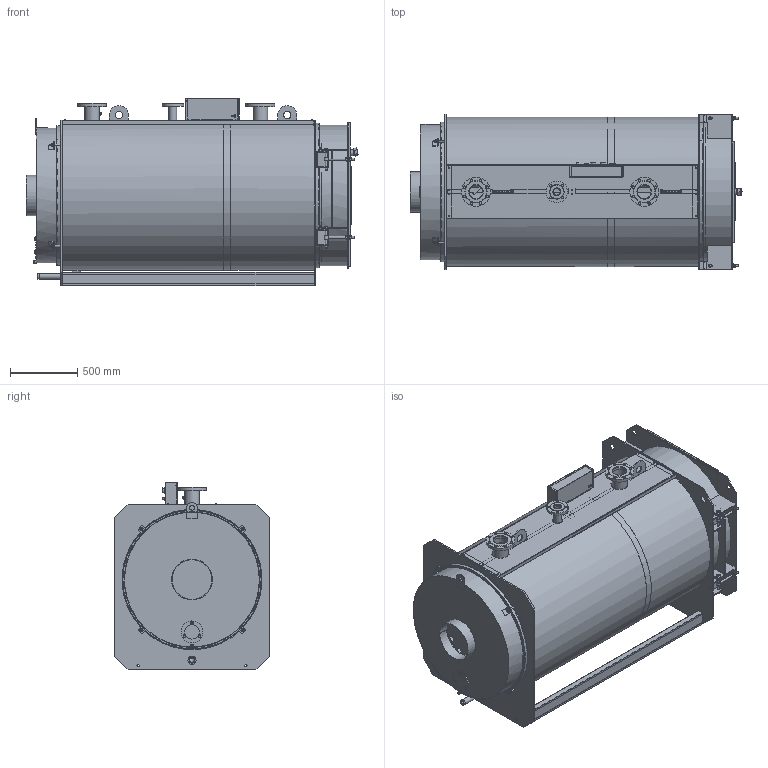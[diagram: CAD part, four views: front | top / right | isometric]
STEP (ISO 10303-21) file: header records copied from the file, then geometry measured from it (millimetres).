
FILE_DESCRIPTION(('STEP AP242'), '1');
FILE_NAME('TITAN Prom 4 (700 êÂò)', '', ('UNSPECIFIED'), ('UNSPECIFIED'), 'ASCON STEP Converter 1.6', 'ASCON Math Kernel', '');
FILE_SCHEMA(('AP242_MANAGED_MODEL_BASED_3D_ENGINEERING_MIM_LF { 1 0 10303 442 1 1 4 }'));
Length unit declared in the file: millimetre
Bounding box: 2465.29 x 1150 x 1393.16 mm (x, y, z)
Volume: 189853924.1 mm3; surface area: 32154992 mm2
Topology: 33 solids, 34 shells, 3379 faces, 8544 edges, 5446 vertices
Faces by surface type: plane 2025, cylinder 985, cone 246, bspline 72, torus 32, sphere 10, extrusion 9
Full cylindrical faces by diameter (mm): 2 x4, 2.8 x27, 3 x1, 3.2 x4, 3.5 x8, 3.6 x4, 4 x12, 4.1 x2, 4.5 x12, 4.8 x1, 5 x17, 6 x5, 7 x2, 7.6 x1, 8 x3, 9 x2, 9.25 x8, 9.5 x10, 9.728 x1, 10 x6, 10.106 x8, 10.5 x1, 11 x1, 12 x13, 13 x9, 13.5 x4, 14 x4, 14.5 x1, 15 x3, 15.7 x1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
Entity records: 200386 total; most frequent: CARTESIAN_POINT 94577, ORIENTED_EDGE 15714, DIRECTION 15426, EDGE_CURVE 7857, AXIS2_PLACEMENT_3D 5517, VERTEX_POINT 5438, EDGE_LOOP 4763, VECTOR 4392
